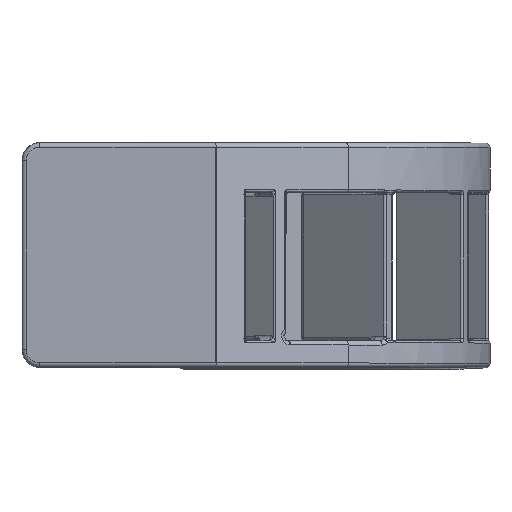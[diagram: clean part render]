
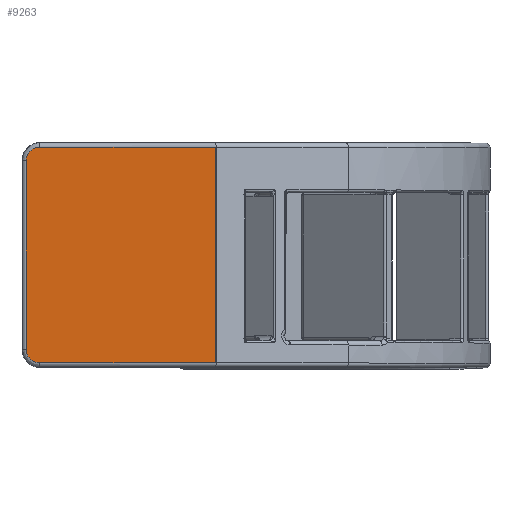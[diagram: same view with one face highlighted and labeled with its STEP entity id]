
A CAD part, top view. The second image highlights one B-rep face of the part: STEP entity #9263.
In plain terms, the highlighted planar face has unit normal (-0.07, 0, 0.998).
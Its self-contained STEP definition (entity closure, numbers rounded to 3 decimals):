
#1380=LINE('',#13886,#1861);
#1381=LINE('',#13888,#1862);
#1382=LINE('',#13890,#1863);
#1383=LINE('',#13894,#1864);
#1861=VECTOR('',#11080,1000.);
#1862=VECTOR('',#11081,1000.);
#1863=VECTOR('',#11082,1000.);
#1864=VECTOR('',#11085,1000.);
#2342=ORIENTED_EDGE('',*,*,#5336,.F.);
#2343=ORIENTED_EDGE('',*,*,#5337,.T.);
#2344=ORIENTED_EDGE('',*,*,#5338,.T.);
#2345=ORIENTED_EDGE('',*,*,#5339,.T.);
#2346=ORIENTED_EDGE('',*,*,#5340,.F.);
#2347=ORIENTED_EDGE('',*,*,#5341,.T.);
#5336=EDGE_CURVE('',#6833,#6834,#7685,.F.);
#5337=EDGE_CURVE('',#6833,#6835,#1380,.F.);
#5338=EDGE_CURVE('',#6835,#6836,#1381,.F.);
#5339=EDGE_CURVE('',#6836,#6837,#1382,.T.);
#5340=EDGE_CURVE('',#6838,#6837,#7686,.F.);
#5341=EDGE_CURVE('',#6838,#6834,#1383,.T.);
#6833=VERTEX_POINT('',#13884);
#6834=VERTEX_POINT('',#13885);
#6835=VERTEX_POINT('',#13887);
#6836=VERTEX_POINT('',#13889);
#6837=VERTEX_POINT('',#13891);
#6838=VERTEX_POINT('',#13893);
#7685=ELLIPSE('',#9913,1.528,1.524);
#7686=ELLIPSE('',#9914,1.528,1.524);
#7889=EDGE_LOOP('',(#2342,#2343,#2344,#2345,#2346,#2347));
#8532=FACE_BOUND('',#7889,.T.);
#9175=PLANE('',#9912);
#9263=ADVANCED_FACE('',(#8532),#9175,.T.);
#9912=AXIS2_PLACEMENT_3D('',#13882,#11076,#11077);
#9913=AXIS2_PLACEMENT_3D('',#13883,#11078,#11079);
#9914=AXIS2_PLACEMENT_3D('',#13892,#11083,#11084);
#11076=DIRECTION('',(-0.07,0.,0.998));
#11077=DIRECTION('',(0.998,0.,0.07));
#11078=DIRECTION('',(-0.07,0.,0.998));
#11079=DIRECTION('',(-0.998,0.,-0.07));
#11080=DIRECTION('',(-0.998,0.,-0.07));
#11081=DIRECTION('',(0.,-1.,0.));
#11082=DIRECTION('',(-0.998,0.,-0.07));
#11083=DIRECTION('',(-0.07,0.,0.998));
#11084=DIRECTION('',(-0.998,0.,-0.07));
#11085=DIRECTION('',(0.,-1.,0.));
#13882=CARTESIAN_POINT('',(-152.21,358.813,1.595));
#13883=CARTESIAN_POINT('',(-172.073,335.445,0.206));
#13884=CARTESIAN_POINT('',(-172.073,333.921,0.206));
#13885=CARTESIAN_POINT('',(-173.597,335.445,0.1));
#13886=CARTESIAN_POINT('',(-152.135,333.921,1.6));
#13887=CARTESIAN_POINT('',(-152.203,333.921,1.596));
#13888=CARTESIAN_POINT('',(-152.203,358.813,1.596));
#13889=CARTESIAN_POINT('',(-152.203,358.305,1.596));
#13890=CARTESIAN_POINT('',(-152.21,358.305,1.595));
#13891=CARTESIAN_POINT('',(-172.073,358.305,0.206));
#13892=CARTESIAN_POINT('',(-172.073,356.781,0.206));
#13893=CARTESIAN_POINT('',(-173.597,356.781,0.1));
#13894=CARTESIAN_POINT('',(-173.597,333.921,0.1));
